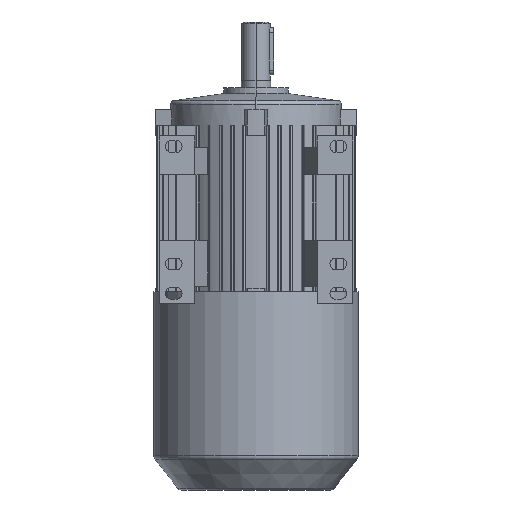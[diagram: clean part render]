
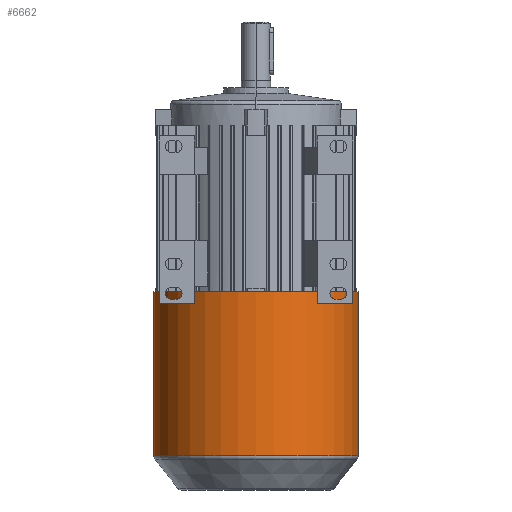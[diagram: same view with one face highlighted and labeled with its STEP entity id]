
A CAD part, front view. The second image highlights one B-rep face of the part: STEP entity #6662.
In plain terms, the highlighted cylindrical face has radius 87 mm (diameter 174 mm), a partial arc.
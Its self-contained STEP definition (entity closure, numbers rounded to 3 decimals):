
#291=CARTESIAN_POINT('',(0.,0.,-148.));
#292=DIRECTION('',(0.,0.,-1.));
#293=DIRECTION('',(1.,0.,0.));
#294=AXIS2_PLACEMENT_3D('',#291,#292,#293);
#676=DIRECTION('',(0.,0.,1.));
#677=VECTOR('',#676,139.76);
#678=CARTESIAN_POINT('',(87.,0.,-287.76));
#679=LINE('',#678,#677);
#680=DIRECTION('',(0.,0.,1.));
#681=VECTOR('',#680,139.76);
#682=CARTESIAN_POINT('',(-87.,0.,-287.76));
#683=LINE('',#682,#681);
#699=CARTESIAN_POINT('',(0.,0.,-287.76));
#700=DIRECTION('',(0.,0.,1.));
#701=DIRECTION('',(-1.,0.,0.));
#702=AXIS2_PLACEMENT_3D('',#699,#700,#701);
#5448=CARTESIAN_POINT('',(87.,0.,-148.));
#5449=CARTESIAN_POINT('',(-87.,0.,-148.));
#5450=VERTEX_POINT('',#5448);
#5451=VERTEX_POINT('',#5449);
#5452=CARTESIAN_POINT('',(-87.,0.,-287.76));
#5453=CARTESIAN_POINT('',(87.,0.,-287.76));
#5454=VERTEX_POINT('',#5452);
#5455=VERTEX_POINT('',#5453);
#6651=CARTESIAN_POINT('',(0.,0.,-139.55));
#6652=DIRECTION('',(0.,0.,-1.));
#6653=DIRECTION('',(-1.,0.,0.));
#6654=AXIS2_PLACEMENT_3D('',#6651,#6652,#6653);
#6655=CYLINDRICAL_SURFACE('',#6654,87.);
#6656=ORIENTED_EDGE('',*,*,#6642,.F.);
#6657=ORIENTED_EDGE('',*,*,#6617,.T.);
#6658=ORIENTED_EDGE('',*,*,#6284,.F.);
#6659=ORIENTED_EDGE('',*,*,#6614,.F.);
#6660=EDGE_LOOP('',(#6656,#6657,#6658,#6659));
#6661=FACE_OUTER_BOUND('',#6660,.F.);
#6662=ADVANCED_FACE('',(#6661),#6655,.T.);
#295=CIRCLE('',#294,87.);
#703=CIRCLE('',#702,87.);
#6284=EDGE_CURVE('',#5450,#5451,#295,.T.);
#6614=EDGE_CURVE('',#5455,#5450,#679,.T.);
#6617=EDGE_CURVE('',#5454,#5451,#683,.T.);
#6642=EDGE_CURVE('',#5454,#5455,#703,.T.);
